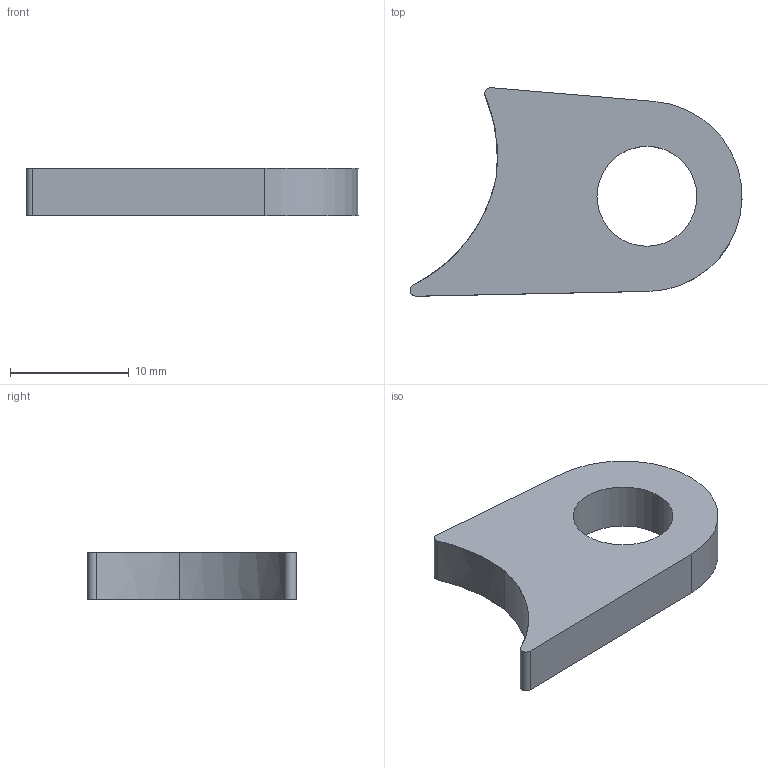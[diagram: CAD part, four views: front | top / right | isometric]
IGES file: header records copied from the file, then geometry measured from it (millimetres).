
Start section: START RECORD GO HERE.
Global section: file name: 20M_SU_05003R (chape susp avant R).igs; native system: IBM CATIA IGES - CATIA Version 5 Release 19 ; preprocessor: CATIA Version 5 Release 19 ; author: mik75; organization: LAPTOP-SUH344G9; date: 20200110.162951; units: millimetre
Bounding box: 27.92 x 17.54 x 4 mm (x, y, z)
Surface area: 993 mm2 (no closed solid volume)
Topology: 0 solids, 0 shells, 11 faces, 54 edges, 57 vertices
Faces by surface type: revolution 5, plane 4, extrusion 2
